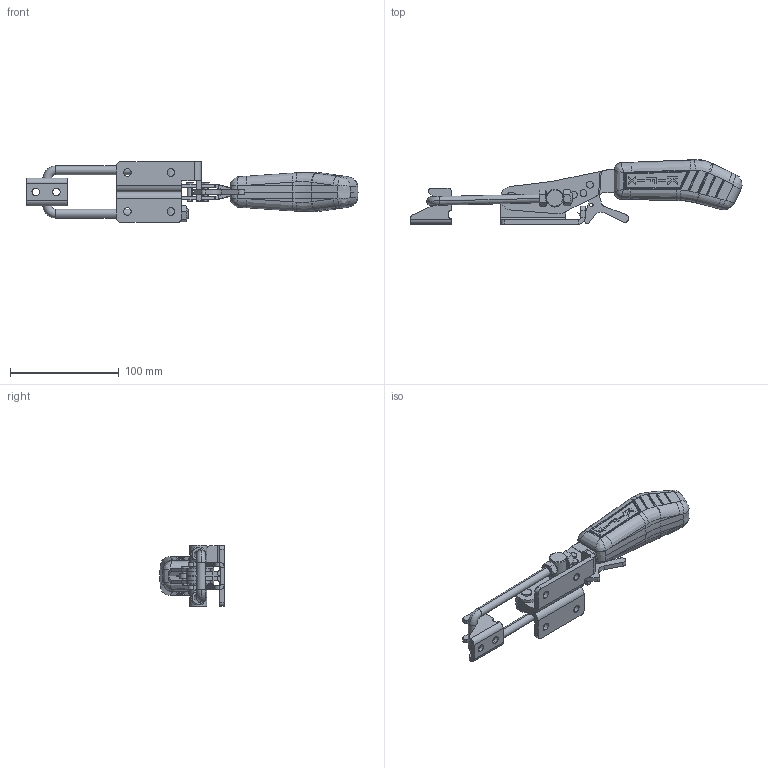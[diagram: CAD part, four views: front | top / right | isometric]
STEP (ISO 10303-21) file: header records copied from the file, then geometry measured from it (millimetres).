
FILE_DESCRIPTION (( 'STEP AP203' ), '1' );
FILE_NAME ('KF-943 DTR.STEP', '2014-08-21T14:30:01', ( 'Ricardo' ), ( '' ), 'SwSTEP 2.0', 'SolidWorks 2013', '' );
FILE_SCHEMA (( 'CONFIG_CONTROL_DESIGN' ));
Length unit declared in the file: millimetre
Products named in the file (14): 11.50002; 02.12005; 07.60003; 02.12006_Esquerda; 06.50049; 01.10006_Direita; 18.10009; 01.10006_Esquerda; 06.50050; 16.20038; KF-943 DTR; 03.20006; 15.10030; 11.50017
Assembly tree (17 placements, depth 2):
  KF-943 DTR
    02.12005
    02.12006_Esquerda
    01.10006_Direita
    01.10006_Esquerda
    16.20038
    03.20006
    15.10030
    11.50017  x2
    11.50002  x2
    07.60003
    06.50049
    18.10009
    06.50050  x3
Bounding box: 305.76 x 59.44 x 56.5 mm (x, y, z)
Volume: 188627.3 mm3; surface area: 77052.5 mm2
Topology: 17 solids, 17 shells, 760 faces, 1909 edges, 1191 vertices
Faces by surface type: plane 266, cylinder 242, bspline 153, sphere 48, cone 44, torus 7
Entity records: 26682 total; most frequent: CARTESIAN_POINT 9656, ORIENTED_EDGE 3518, DIRECTION 2778, EDGE_CURVE 1759, VERTEX_POINT 1105, AXIS2_PLACEMENT_3D 1077, EDGE_LOOP 780, ADVANCED_FACE 704
